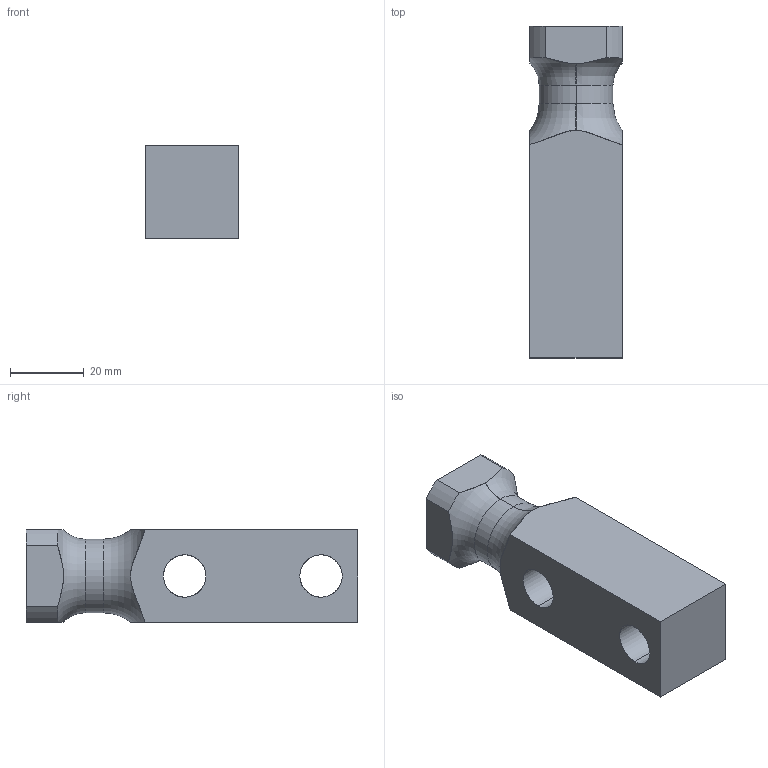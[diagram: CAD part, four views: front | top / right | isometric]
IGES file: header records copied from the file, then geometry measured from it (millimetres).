
Start section: START RECORD GO HERE.
Global section: file name: 395V-04-025-090.igs; native system: DASSAULT SYSTEMES CATIA V5 R20 - www.3ds.com; preprocessor: CATIA Version 5 Release 20 ; author: Utente; organization: NB04-ASUS; date: 20200410.132359; units: millimetre
Bounding box: 25 x 90 x 25 mm (x, y, z)
Surface area: 11466.6 mm2 (no closed solid volume)
Topology: 0 solids, 0 shells, 30 faces, 158 edges, 158 vertices
Faces by surface type: revolution 18, extrusion 12
